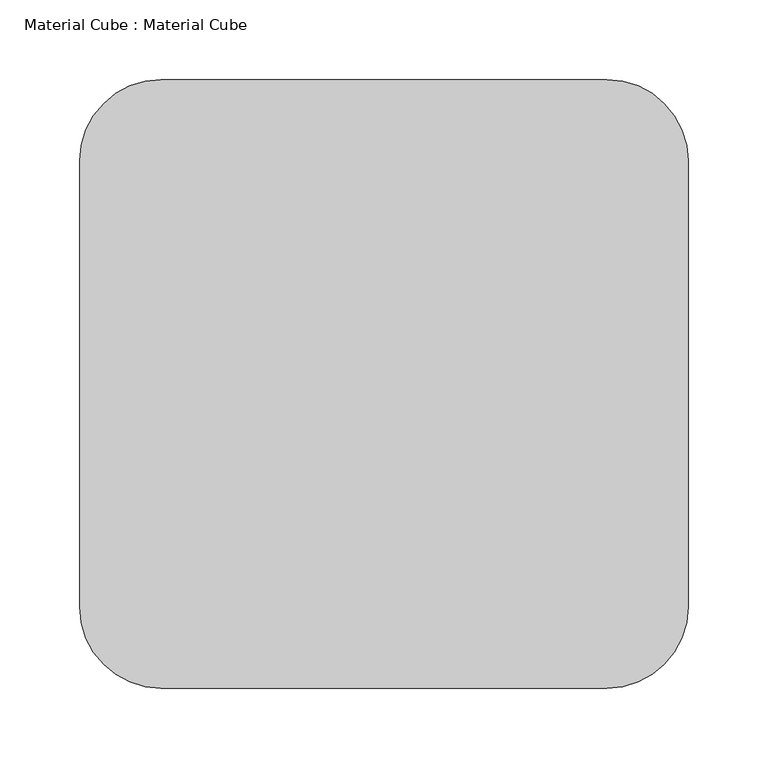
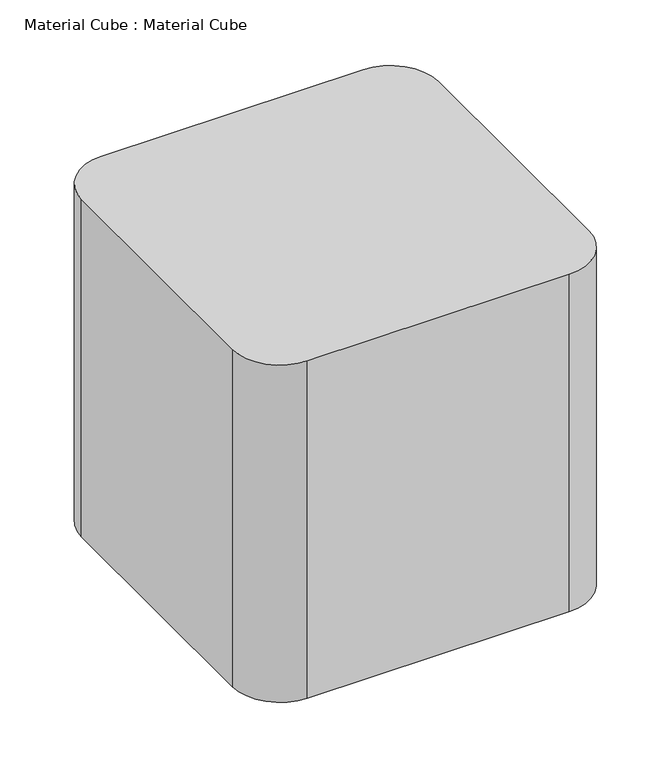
"""IFC4 building model written with IfcOpenShell, lengths in millimetres: proxy geometry, Material Cube : Material Cube."""

from ifc_helpers import new_model, si_unit, point, frame_2d, origin, origin_with_axes, place, context, project, spatial, polyline, circle_curve, trimmed, segment, composite_curve, outline, extrude, source, transform, mapped, element, save


def material_cube_material_cube_d003602f(model_context):
    return source(origin(), model_context, "Body", "SweptSolid", [
        extrude(outline(composite_curve([segment(trimmed(circle_curve(frame_2d((139.7, 139.7)), 50.8), [point((139.7, 190.5))], [point((190.5, 139.7))], False, "CARTESIAN"), True, "CONTINUOUS"), segment(polyline([(190.5, 139.7), (190.5, -139.7)]), True, "CONTINUOUS"), segment(trimmed(circle_curve(frame_2d((139.7, -139.7)), 50.8), [point((190.5, -139.7))], [point((139.7, -190.5))], False, "CARTESIAN"), True, "CONTINUOUS"), segment(polyline([(139.7, -190.5), (-139.7, -190.5)]), True, "CONTINUOUS"), segment(trimmed(circle_curve(frame_2d((-139.7, -139.7)), 50.8), [point((-139.7, -190.5))], [point((-190.5, -139.7))], False, "CARTESIAN"), True, "CONTINUOUS"), segment(polyline([(-190.5, -139.7), (-190.5, 139.7)]), True, "CONTINUOUS"), segment(trimmed(circle_curve(frame_2d((-139.7, 139.7)), 50.8), [point((-190.5, 139.7))], [point((-139.7, 190.5))], False, "CARTESIAN"), True, "CONTINUOUS"), segment(polyline([(-139.7, 190.5), (139.7, 190.5)]), True, "CONTINUOUS")], self_intersect=False)), origin_with_axes(), (0.0, 0.0, 1.0), 381.0),
    ])


if __name__ == "__main__":
    model = new_model("IFC4")
    model_context = context("Model", 3, world=origin())
    ifc_project = project(units=[si_unit("LENGTHUNIT", "METRE", prefix="MILLI")], contexts=[model_context])
    site = spatial("IfcSite", under=ifc_project)
    building = spatial("IfcBuilding", under=site)
    placement = place(None, origin())
    material_cube_material_cube_shape = material_cube_material_cube_d003602f(model_context)
    element("IfcBuildingElementProxy", 1, Name="Material Cube : Material Cube", ObjectType="Material Cube : Material Cube", at=placement, inside=building, context=model_context, shape_type="MappedRepresentation", body=[
        mapped(material_cube_material_cube_shape, transform((0.0, 0.0, 0.0), x_axis=(1.0, 0.0, 0.0), y_axis=(0.0, 1.0, 0.0), z_axis=(0.0, 0.0, 1.0))),
    ])
    save(model, "model.ifc")
